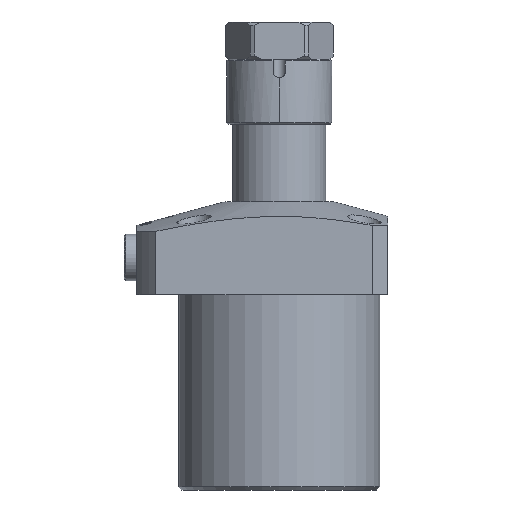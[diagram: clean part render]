
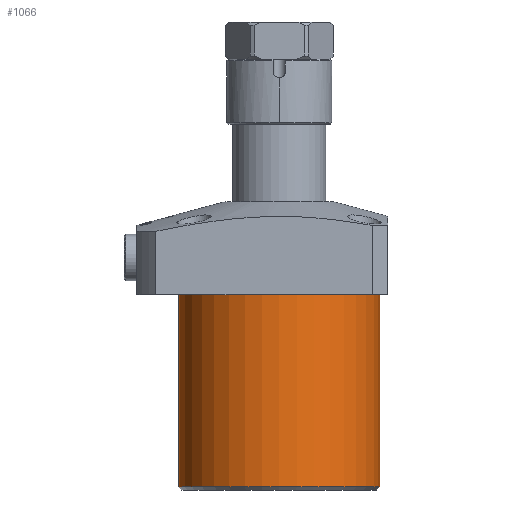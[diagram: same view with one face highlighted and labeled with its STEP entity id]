
A CAD part, front view. The second image highlights one B-rep face of the part: STEP entity #1066.
In plain terms, the highlighted cylindrical face has radius 32.5 mm (diameter 65 mm), a partial arc.
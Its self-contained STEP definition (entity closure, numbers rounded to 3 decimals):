
#36 = CARTESIAN_POINT ( 'NONE',  ( -32.5, 0., -62. ) ) ;
#103 = CARTESIAN_POINT ( 'NONE',  ( 0., 0., 0. ) ) ;
#271 = ORIENTED_EDGE ( 'NONE', *, *, #4735, .T. ) ;
#494 = VERTEX_POINT ( 'NONE', #7020 ) ;
#702 = EDGE_CURVE ( 'NONE', #6139, #4691, #16604, .T. ) ;
#1066 = ADVANCED_FACE ( 'NONE', ( #10451 ), #10061, .T. ) ;
#1387 = DIRECTION ( 'NONE',  ( -1., 0., 0. ) ) ;
#2850 = DIRECTION ( 'NONE',  ( 0., 0., 1. ) ) ;
#3343 = DIRECTION ( 'NONE',  ( 0., 0., 1. ) ) ;
#3554 = CIRCLE ( 'NONE', #5711, 32.5 ) ;
#3700 = CARTESIAN_POINT ( 'NONE',  ( 32.5, 0., 0. ) ) ;
#3991 = CARTESIAN_POINT ( 'NONE',  ( 0., 0., -63. ) ) ;
#4223 = LINE ( 'NONE', #9770, #7245 ) ;
#4691 = VERTEX_POINT ( 'NONE', #7725 ) ;
#4735 = EDGE_CURVE ( 'NONE', #11544, #494, #3554, .T. ) ;
#4972 = ORIENTED_EDGE ( 'NONE', *, *, #702, .T. ) ;
#5711 = AXIS2_PLACEMENT_3D ( 'NONE', #103, #9099, #1387 ) ;
#6139 = VERTEX_POINT ( 'NONE', #36 ) ;
#6513 = LINE ( 'NONE', #9718, #13368 ) ;
#7020 = CARTESIAN_POINT ( 'NONE',  ( -32.5, 0., 0. ) ) ;
#7245 = VECTOR ( 'NONE', #3343, 1000. ) ;
#7623 = EDGE_CURVE ( 'NONE', #6139, #494, #6513, .T. ) ;
#7725 = CARTESIAN_POINT ( 'NONE',  ( 32.5, 0., -62. ) ) ;
#7874 = DIRECTION ( 'NONE',  ( 1., 0., 0. ) ) ;
#8026 = ORIENTED_EDGE ( 'NONE', *, *, #13963, .T. ) ;
#9099 = DIRECTION ( 'NONE',  ( 0., 0., -1. ) ) ;
#9140 = DIRECTION ( 'NONE',  ( 0., 0., 1. ) ) ;
#9512 = ORIENTED_EDGE ( 'NONE', *, *, #7623, .F. ) ;
#9718 = CARTESIAN_POINT ( 'NONE',  ( -32.5, 0., -63. ) ) ;
#9770 = CARTESIAN_POINT ( 'NONE',  ( 32.5, 0., -63. ) ) ;
#10061 = CYLINDRICAL_SURFACE ( 'NONE', #10101, 32.5 ) ;
#10101 = AXIS2_PLACEMENT_3D ( 'NONE', #3991, #9140, #7874 ) ;
#10451 = FACE_OUTER_BOUND ( 'NONE', #10728, .T. ) ;
#10583 = CARTESIAN_POINT ( 'NONE',  ( 0., 0., -62. ) ) ;
#10728 = EDGE_LOOP ( 'NONE', ( #9512, #4972, #8026, #271 ) ) ;
#11544 = VERTEX_POINT ( 'NONE', #3700 ) ;
#11893 = DIRECTION ( 'NONE',  ( -1., 0., 0. ) ) ;
#13368 = VECTOR ( 'NONE', #16262, 1000. ) ;
#13963 = EDGE_CURVE ( 'NONE', #4691, #11544, #4223, .T. ) ;
#14757 = AXIS2_PLACEMENT_3D ( 'NONE', #10583, #2850, #11893 ) ;
#16262 = DIRECTION ( 'NONE',  ( 0., 0., 1. ) ) ;
#16604 = CIRCLE ( 'NONE', #14757, 32.5 ) ;
